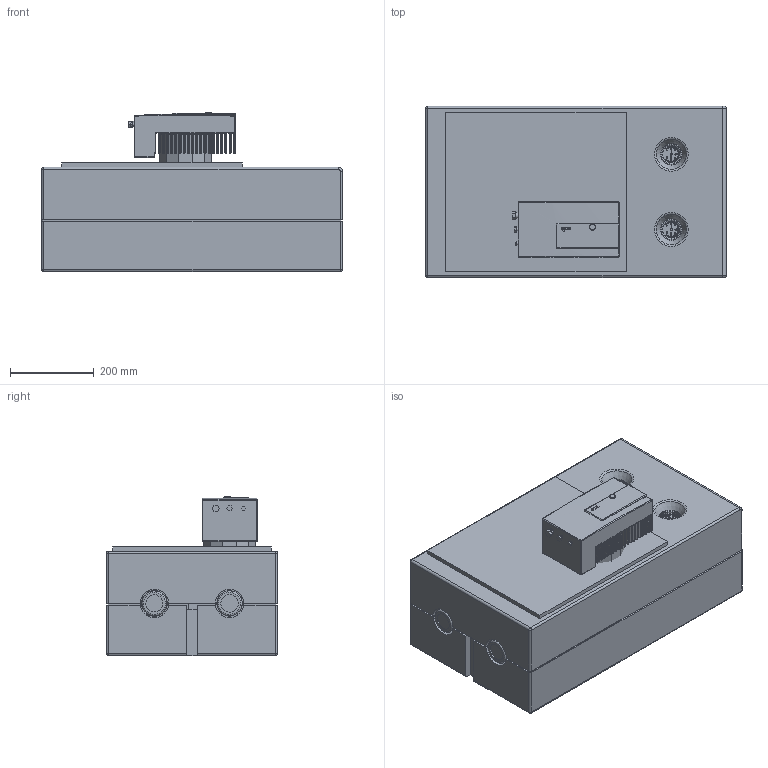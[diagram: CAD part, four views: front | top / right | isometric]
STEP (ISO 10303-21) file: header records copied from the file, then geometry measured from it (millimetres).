
FILE_DESCRIPTION((''),'2;1');
FILE_NAME('C:\Users\Moreuih\Desktop\HK DN50 10026524 (Wilo)\10026524-HK DN50 (Stratos PARA 40 1-8).stp','2016-09-01T15:24:41',('Moreuih'),(''),'Autodesk Inventor 2013','Autodesk Inventor 2013','');
FILE_SCHEMA(('AUTOMOTIVE_DESIGN { 1 0 10303 214 1 1 1 1 }'));
Length unit declared in the file: millimetre
Products named in the file (5): 10026524 - HK DN50 (Stratos PARA 40 1-8); insulation back; Pumpe Stratos PARA 50 1-9; hydrau HK DN50; insulation Front
Assembly tree (4 placements, depth 2):
  10026524 - HK DN50 (Stratos PARA 40 1-8)
    insulation back
    Pumpe Stratos PARA 50 1-9
    hydrau HK DN50
    insulation Front
Bounding box: 720 x 410 x 381 mm (x, y, z)
Volume: 55603616.5 mm3; surface area: 3212671.1 mm2
Topology: 6 solids, 6 shells, 3880 faces, 9816 edges, 6241 vertices
Faces by surface type: plane 2141, cylinder 702, bspline 608, cone 215, sphere 116, torus 98
Full cylindrical faces by diameter (mm): 2 x2, 2.601 x2, 3 x2, 5 x4, 5.1 x2, 7 x1, 8 x2, 8.2 x2, 9 x1, 10 x4, 11 x2, 11.445 x4, 11.7 x2, 12 x18, 13 x16, 13.16 x2, 13.5 x3, 13.8 x4, 14 x8, 15 x1, 16.63 x8, 17 x6, 19 x2, 20 x16, 21.8 x2, 41 x1, 42 x1, 46 x2, 46.5 x2, 49 x2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
Entity records: 131718 total; most frequent: CARTESIAN_POINT 41530, ORIENTED_EDGE 18714, DIRECTION 16051, EDGE_CURVE 9357, VERTEX_POINT 6160, VECTOR 5871, LINE 5871, AXIS2_PLACEMENT_3D 5090
